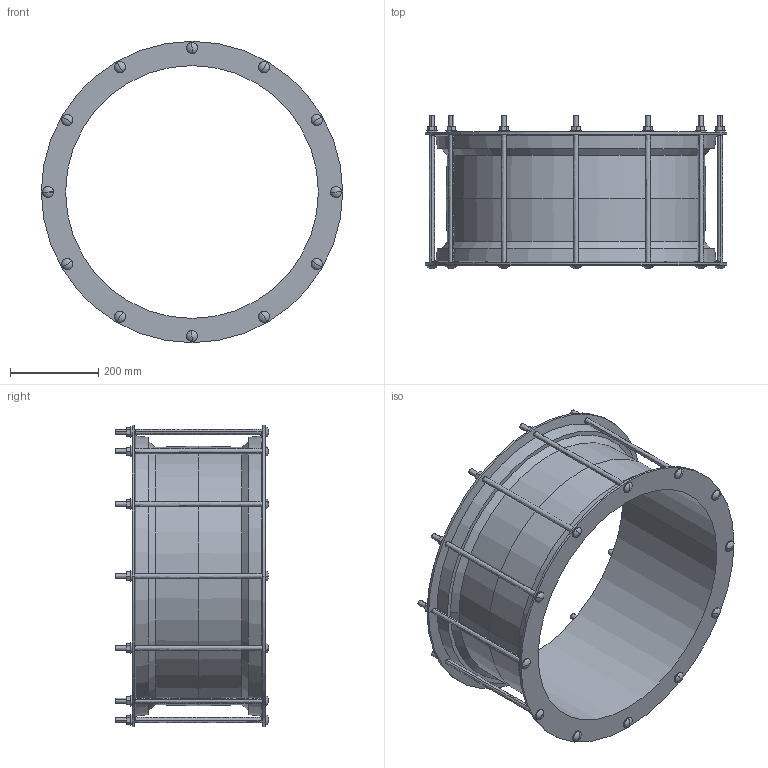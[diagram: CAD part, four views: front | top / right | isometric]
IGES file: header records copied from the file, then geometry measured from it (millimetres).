
Start section:  PTC IGES file: 555_572.igs
Global section: file name: 555_572.igs; native system: Creo Parametric by PTC Inc.; preprocessor: 2016130; author: mfairey; organization: Unknown; date: 20181218.142853; units: millimetre
Bounding box: 684.5 x 348 x 684.5 mm (x, y, z)
Surface area: 1630367.1 mm2 (no closed solid volume)
Topology: 0 solids, 0 shells, 254 faces, 1208 edges, 1184 vertices
Faces by surface type: revolution 142, bspline 112
